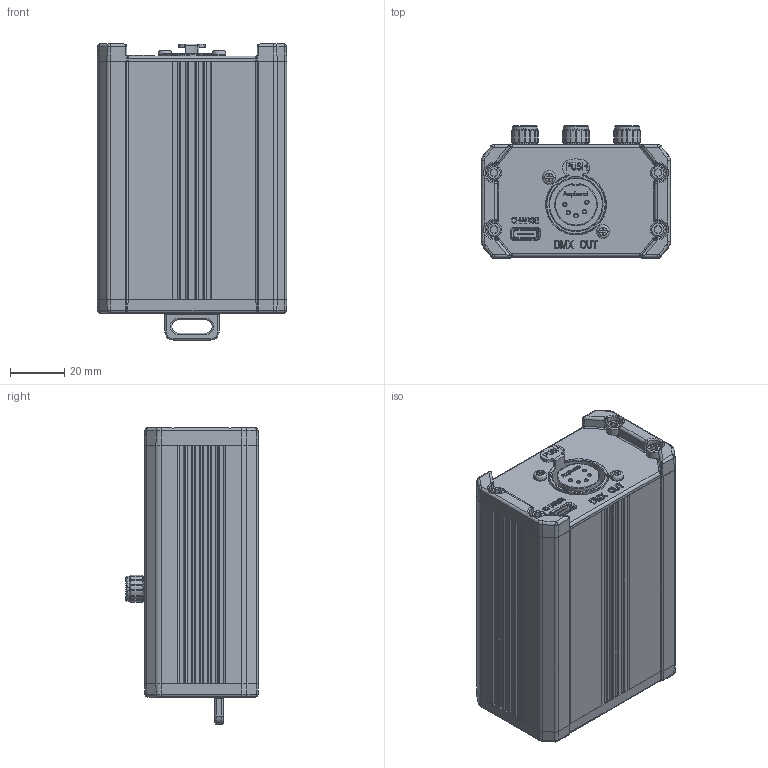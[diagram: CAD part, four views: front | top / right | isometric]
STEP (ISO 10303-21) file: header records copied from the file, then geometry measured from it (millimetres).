
FILE_DESCRIPTION(/* description */ (''),/* implementation_level */ '2;1');
FILE_NAME(/* name */ 'C:\Users\dgooch\Documents\CADENG\PRO\OnAir Producer\OnAir Producer.stp',/* time_stamp */ '2022-01-28T11:01:37-05:00',/* author */ ('dgooch'),/* organization */ (''),/* preprocessor_version */ 'ST-DEVELOPER v18.1',/* originating_system */ 'Autodesk Inventor 2022',/* authorisation */ '');
FILE_SCHEMA (('AUTOMOTIVE_DESIGN { 1 0 10303 214 3 1 1 }'));
Products named in the file (16): OnAir Producer; 00; CH-0001_ASM; CH-000; 0003; CH-000 (1); 0004_ASM; 0005; 000; 10X10-00; 00 (1); 00 (2); 00 (3); CM3X10--__0001; PA3X12--0001; PM3X6---0001
Assembly tree (30 placements, depth 4):
  OnAir Producer
    00
    CH-0001_ASM
      CH-000
      0003
      CH-000 (1)
      0004_ASM
        0005
        000  x3
      10X10-00  x3
    00 (1)
    00 (2)
    00 (3)
    CM3X10--__0001  x8
    PA3X12--0001  x2
    PM3X6---0001  x4
Bounding box: 70 x 49 x 109.5 mm (x, y, z)
Volume: 105346.1 mm3; surface area: 89228.9 mm2
Topology: 38 solids, 50 shells, 6586 faces, 17641 edges, 11226 vertices
Faces by surface type: plane 5129, cylinder 780, bspline 365, torus 155, cone 152, sphere 5
Full cylindrical faces by diameter (mm): 1 x3, 1.2 x5, 2.4 x2, 2.5 x10, 3 x44, 3.2 x12, 5 x2, 5.4 x6, 5.5 x13, 6 x10, 6.8 x3, 7 x3, 9 x5, 9.3 x6, 10 x5, 10.5 x3, 19.5 x1, 22.5 x1
Entity records: 192606 total; most frequent: CARTESIAN_POINT 53040, ORIENTED_EDGE 30160, DIRECTION 26727, EDGE_CURVE 15080, LINE 12465, VECTOR 12465, VERTEX_POINT 9794, AXIS2_PLACEMENT_3D 7131
